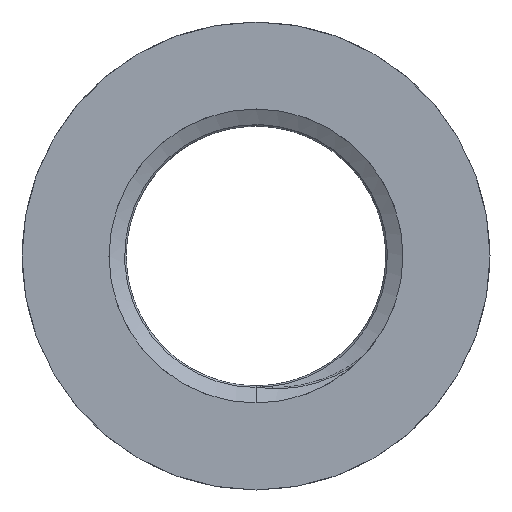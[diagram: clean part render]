
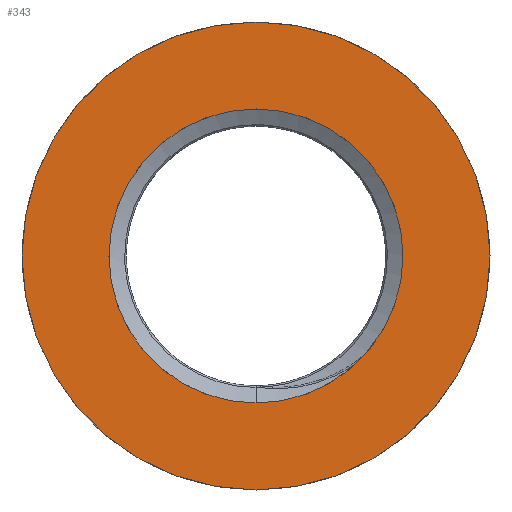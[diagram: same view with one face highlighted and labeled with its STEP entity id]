
A CAD part, front view. The second image highlights one B-rep face of the part: STEP entity #343.
In plain terms, the highlighted planar face has unit normal (0, -1, 0).
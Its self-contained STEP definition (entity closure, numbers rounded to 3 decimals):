
#262 = CARTESIAN_POINT ( 'NONE',  ( 0., 0., 0. ) ) ;
#343 = ADVANCED_FACE ( 'NONE', ( #894, #575 ), #3565, .F. ) ;
#473 = EDGE_LOOP ( 'NONE', ( #3435 ) ) ;
#575 = FACE_BOUND ( 'NONE', #473, .T. ) ;
#597 = DIRECTION ( 'NONE',  ( 0., 1., 0. ) ) ;
#894 = FACE_OUTER_BOUND ( 'NONE', #1421, .T. ) ;
#902 = CARTESIAN_POINT ( 'NONE',  ( 0., 0., 9.75 ) ) ;
#913 = AXIS2_PLACEMENT_3D ( 'NONE', #262, #3823, #2163 ) ;
#1183 = ORIENTED_EDGE ( 'NONE', *, *, #2755, .F. ) ;
#1421 = EDGE_LOOP ( 'NONE', ( #1183 ) ) ;
#1666 = EDGE_CURVE ( 'NONE', #3170, #3170, #2065, .T. ) ;
#2065 = CIRCLE ( 'NONE', #913, 6.125 ) ;
#2106 = DIRECTION ( 'NONE',  ( 0., 0., 1. ) ) ;
#2151 = CARTESIAN_POINT ( 'NONE',  ( 0., 0., 6.125 ) ) ;
#2163 = DIRECTION ( 'NONE',  ( 0., 0., 1. ) ) ;
#2216 = CARTESIAN_POINT ( 'NONE',  ( 0., 0., 0. ) ) ;
#2755 = EDGE_CURVE ( 'NONE', #3849, #3849, #3390, .T. ) ;
#2876 = DIRECTION ( 'NONE',  ( 0., 0., 1. ) ) ;
#3170 = VERTEX_POINT ( 'NONE', #2151 ) ;
#3316 = AXIS2_PLACEMENT_3D ( 'NONE', #4064, #4089, #2106 ) ;
#3390 = CIRCLE ( 'NONE', #3316, 9.75 ) ;
#3435 = ORIENTED_EDGE ( 'NONE', *, *, #1666, .T. ) ;
#3565 = PLANE ( 'NONE',  #3572 ) ;
#3572 = AXIS2_PLACEMENT_3D ( 'NONE', #2216, #597, #2876 ) ;
#3823 = DIRECTION ( 'NONE',  ( 0., 1., 0. ) ) ;
#3849 = VERTEX_POINT ( 'NONE', #902 ) ;
#4064 = CARTESIAN_POINT ( 'NONE',  ( 0., 0., 0. ) ) ;
#4089 = DIRECTION ( 'NONE',  ( 0., 1., 0. ) ) ;
